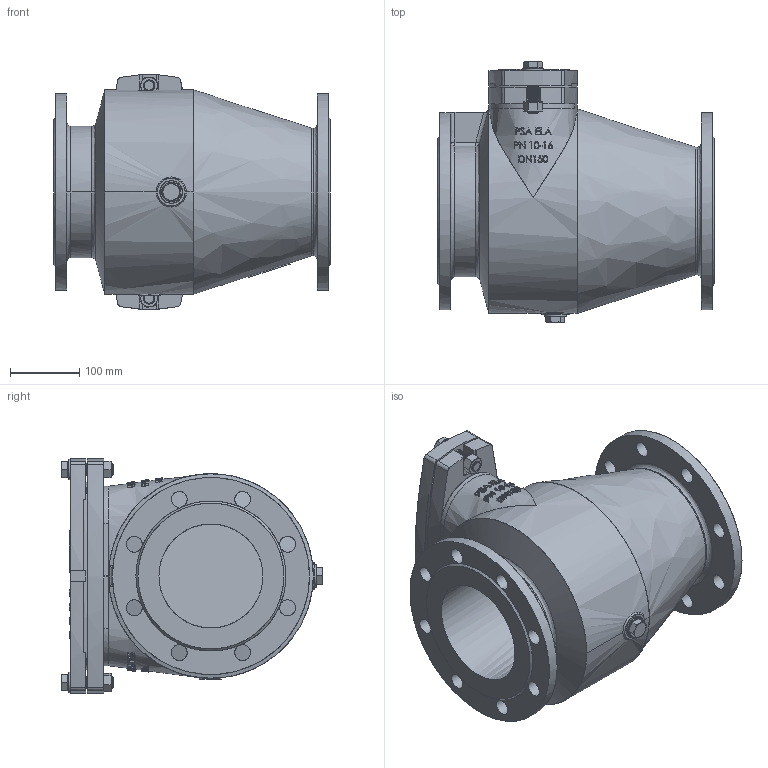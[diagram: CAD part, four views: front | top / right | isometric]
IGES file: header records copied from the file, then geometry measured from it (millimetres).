
Start section: P
Global section: file name: PSA ELA DN150 PN16.igs; native system: By Siemens PLM Incorporated; preprocessor: XPlus GENERIC/IGES 25.1.153; author: Christin-Michelle Fremgen; organization: PSA Wasserarmaturen GmbH; date: 20241016.120018; units: millimetre
Bounding box: 400 x 377.19 x 339.5 mm (x, y, z)
Surface area: 1183313.8 mm2 (no closed solid volume)
Topology: 0 solids, 0 shells, 1740 faces, 10204 edges, 10181 vertices
Faces by surface type: bspline 1740
